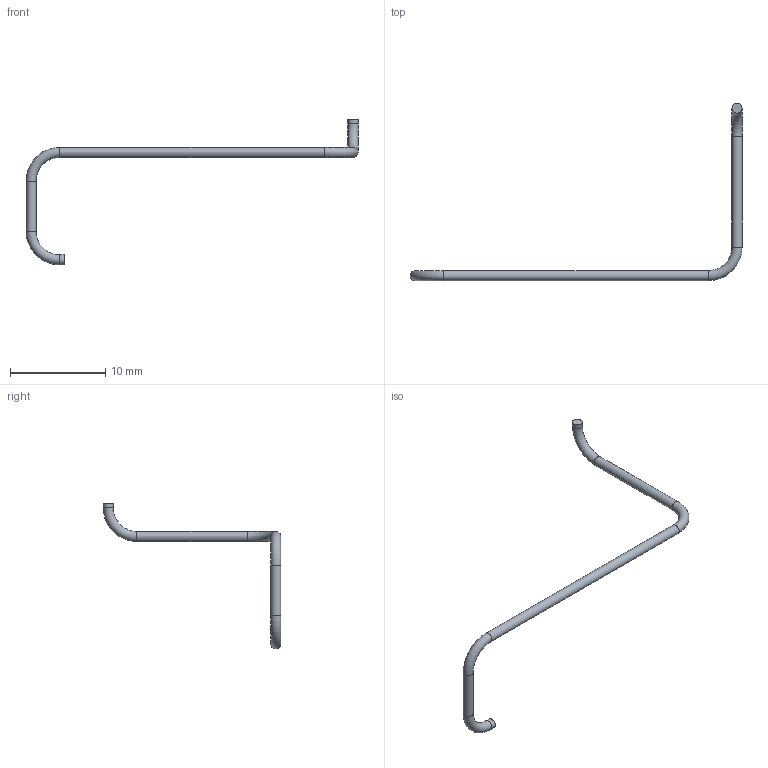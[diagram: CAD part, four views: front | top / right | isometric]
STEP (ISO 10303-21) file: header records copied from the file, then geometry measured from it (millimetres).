
FILE_DESCRIPTION(('Open CASCADE Model'),'2;1');
FILE_NAME('R36_J3_MIC_CK_PIGTAIL_2_OD1p05_R3','2026-09-15T14:09:12',( 'Author'),('Open CASCADE'),'Open CASCADE STEP processor 7.9', 'build123d','Unknown');
FILE_SCHEMA(('AUTOMOTIVE_DESIGN { 1 0 10303 214 1 1 1 1 }'));
Length unit declared in the file: millimetre
Products named in the file (1): R36_J3_MIC_CK_PIGTAIL_2_OD1p05_R3
Bounding box: 34.82 x 18.61 x 15.29 mm (x, y, z)
Volume: 55.8 mm3; surface area: 214.3 mm2
Topology: 1 solids, 1 shells, 11 faces, 19 edges, 10 vertices
Faces by surface type: cylinder 5, torus 4, plane 2
Full cylindrical faces by diameter (mm): 1.05 x5
Entity records: 503 total; most frequent: CARTESIAN_POINT 96, DIRECTION 78, ORIENTED_EDGE 38, PCURVE 38, DEFINITIONAL_REPRESENTATION 38, AXIS2_PLACEMENT_3D 26, LINE 24, VECTOR 24
